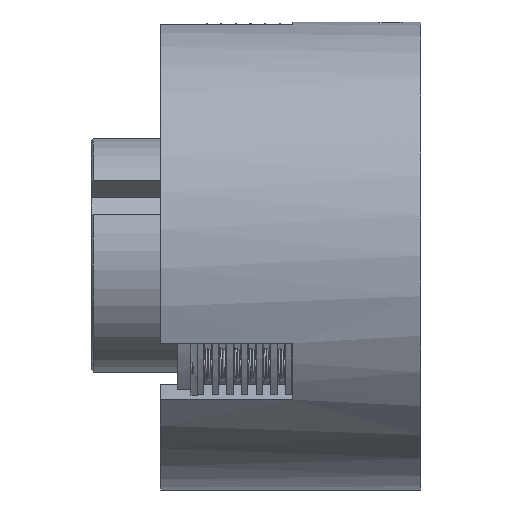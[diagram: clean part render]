
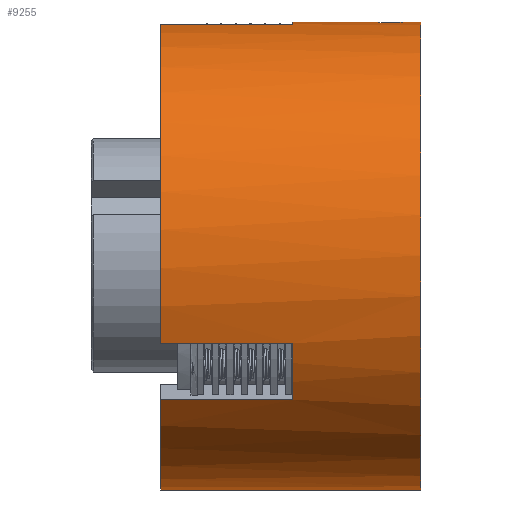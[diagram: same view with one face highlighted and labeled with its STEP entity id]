
A CAD part, top view. The second image highlights one B-rep face of the part: STEP entity #9255.
In plain terms, the highlighted cylindrical face has radius 54 mm (diameter 108 mm), a full revolution.
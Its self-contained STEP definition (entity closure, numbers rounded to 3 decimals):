
#163=FACE_BOUND('',#2933,.T.);
#341=CYLINDRICAL_SURFACE('',#10229,54.);
#725=LINE('',#18942,#1391);
#732=LINE('',#18956,#1398);
#797=LINE('',#19346,#1463);
#804=LINE('',#19360,#1470);
#809=LINE('',#19370,#1475);
#818=LINE('',#19415,#1484);
#823=LINE('',#19452,#1489);
#1391=VECTOR('',#12029,10.);
#1398=VECTOR('',#12038,10.);
#1463=VECTOR('',#12385,10.);
#1470=VECTOR('',#12394,10.);
#1475=VECTOR('',#12401,10.);
#1484=VECTOR('',#12464,10.);
#1489=VECTOR('',#12515,54.);
#2353=FACE_OUTER_BOUND('',#2932,.T.);
#2932=EDGE_LOOP('',(#7831,#7832,#7833,#7834,#7835,#7836,#7837,#7838,#7839,
#7840,#7841,#7842,#7843,#7844,#7845,#7846,#7847));
#2933=EDGE_LOOP('',(#7848,#7849));
#3169=B_SPLINE_CURVE_WITH_KNOTS('',3,(#19246,#19247,#19248,#19249,#19250,
#19251,#19252,#19253,#19254,#19255,#19256,#19257,#19258,#19259,#19260,#19261,
#19262,#19263),.UNSPECIFIED.,.F.,.F.,(4,2,2,2,2,2,2,2,4),(0.646,
0.807,0.968,1.13,1.291,1.453,
1.614,1.775,1.937),.UNSPECIFIED.);
#3170=B_SPLINE_CURVE_WITH_KNOTS('',3,(#19264,#19265,#19266,#19267,#19268,
#19269,#19270,#19271,#19272,#19273,#19274,#19275,#19276,#19277,#19278,#19279,
#19280,#19281,#19282),.UNSPECIFIED.,.F.,.F.,(4,2,2,2,3,2,2,2,4),(1.937,
2.098,2.26,2.421,2.583,2.744,
2.905,3.067,3.228),.UNSPECIFIED.);
#3606=CIRCLE('',#10182,54.);
#3608=CIRCLE('',#10184,54.);
#3610=CIRCLE('',#10186,54.);
#3617=CIRCLE('',#10202,54.);
#3618=CIRCLE('',#10204,54.);
#3619=CIRCLE('',#10205,54.);
#3621=CIRCLE('',#10209,54.);
#3624=CIRCLE('',#10217,54.);
#3625=CIRCLE('',#10218,54.);
#4234=VERTEX_POINT('',#18939);
#4235=VERTEX_POINT('',#18941);
#4240=VERTEX_POINT('',#18953);
#4241=VERTEX_POINT('',#18955);
#4338=VERTEX_POINT('',#19244);
#4339=VERTEX_POINT('',#19245);
#4362=VERTEX_POINT('',#19343);
#4363=VERTEX_POINT('',#19345);
#4368=VERTEX_POINT('',#19357);
#4369=VERTEX_POINT('',#19359);
#4372=VERTEX_POINT('',#19367);
#4373=VERTEX_POINT('',#19369);
#4377=VERTEX_POINT('',#19382);
#4379=VERTEX_POINT('',#19405);
#4382=VERTEX_POINT('',#19414);
#4384=VERTEX_POINT('',#19429);
#4385=VERTEX_POINT('',#19430);
#5372=EDGE_CURVE('',#4235,#4234,#725,.T.);
#5379=EDGE_CURVE('',#4241,#4240,#732,.T.);
#5507=EDGE_CURVE('',#4338,#4339,#3169,.T.);
#5508=EDGE_CURVE('',#4339,#4338,#3170,.T.);
#5538=EDGE_CURVE('',#4363,#4362,#797,.T.);
#5545=EDGE_CURVE('',#4369,#4368,#804,.T.);
#5550=EDGE_CURVE('',#4373,#4372,#809,.T.);
#5556=EDGE_CURVE('',#4368,#4373,#3606,.T.);
#5558=EDGE_CURVE('',#4377,#4235,#3608,.T.);
#5561=EDGE_CURVE('',#4362,#4241,#3610,.T.);
#5568=EDGE_CURVE('',#4234,#4369,#3617,.T.);
#5569=EDGE_CURVE('',#4379,#4363,#3618,.T.);
#5570=EDGE_CURVE('',#4372,#4379,#3619,.T.);
#5574=EDGE_CURVE('',#4382,#4377,#818,.T.);
#5578=EDGE_CURVE('',#4240,#4382,#3621,.T.);
#5581=EDGE_CURVE('',#4384,#4385,#3624,.T.);
#5582=EDGE_CURVE('',#4385,#4384,#3625,.T.);
#5591=EDGE_CURVE('',#4385,#4379,#823,.T.);
#7831=ORIENTED_EDGE('',*,*,#5581,.F.);
#7832=ORIENTED_EDGE('',*,*,#5582,.F.);
#7833=ORIENTED_EDGE('',*,*,#5591,.T.);
#7834=ORIENTED_EDGE('',*,*,#5569,.T.);
#7835=ORIENTED_EDGE('',*,*,#5538,.T.);
#7836=ORIENTED_EDGE('',*,*,#5561,.T.);
#7837=ORIENTED_EDGE('',*,*,#5379,.T.);
#7838=ORIENTED_EDGE('',*,*,#5578,.T.);
#7839=ORIENTED_EDGE('',*,*,#5574,.T.);
#7840=ORIENTED_EDGE('',*,*,#5558,.T.);
#7841=ORIENTED_EDGE('',*,*,#5372,.T.);
#7842=ORIENTED_EDGE('',*,*,#5568,.T.);
#7843=ORIENTED_EDGE('',*,*,#5545,.T.);
#7844=ORIENTED_EDGE('',*,*,#5556,.T.);
#7845=ORIENTED_EDGE('',*,*,#5550,.T.);
#7846=ORIENTED_EDGE('',*,*,#5570,.T.);
#7847=ORIENTED_EDGE('',*,*,#5591,.F.);
#7848=ORIENTED_EDGE('',*,*,#5507,.T.);
#7849=ORIENTED_EDGE('',*,*,#5508,.T.);
#9255=ADVANCED_FACE('',(#2353,#163),#341,.T.);
#10182=AXIS2_PLACEMENT_3D('',#19380,#12410,#12411);
#10184=AXIS2_PLACEMENT_3D('',#19383,#12414,#12415);
#10186=AXIS2_PLACEMENT_3D('',#19387,#12419,#12420);
#10202=AXIS2_PLACEMENT_3D('',#19403,#12451,#12452);
#10204=AXIS2_PLACEMENT_3D('',#19406,#12455,#12456);
#10205=AXIS2_PLACEMENT_3D('',#19407,#12457,#12458);
#10209=AXIS2_PLACEMENT_3D('',#19421,#12471,#12472);
#10217=AXIS2_PLACEMENT_3D('',#19431,#12487,#12488);
#10218=AXIS2_PLACEMENT_3D('',#19432,#12489,#12490);
#10229=AXIS2_PLACEMENT_3D('',#19451,#12513,#12514);
#12029=DIRECTION('',(-1.,0.,0.));
#12038=DIRECTION('',(-1.,0.,0.));
#12385=DIRECTION('',(1.,0.,0.));
#12394=DIRECTION('',(1.,0.,0.));
#12401=DIRECTION('',(-1.,0.,0.));
#12410=DIRECTION('center_axis',(1.,0.,0.));
#12411=DIRECTION('ref_axis',(0.,1.,0.));
#12414=DIRECTION('center_axis',(1.,0.,0.));
#12415=DIRECTION('ref_axis',(0.,1.,0.));
#12419=DIRECTION('center_axis',(1.,0.,0.));
#12420=DIRECTION('ref_axis',(0.,1.,0.));
#12451=DIRECTION('center_axis',(1.,0.,0.));
#12452=DIRECTION('ref_axis',(0.,1.,0.));
#12455=DIRECTION('center_axis',(1.,0.,0.));
#12456=DIRECTION('ref_axis',(0.,1.,0.));
#12457=DIRECTION('center_axis',(1.,0.,0.));
#12458=DIRECTION('ref_axis',(0.,1.,0.));
#12464=DIRECTION('',(1.,0.,0.));
#12471=DIRECTION('center_axis',(1.,0.,0.));
#12472=DIRECTION('ref_axis',(0.,1.,0.));
#12487=DIRECTION('center_axis',(1.,0.,0.));
#12488=DIRECTION('ref_axis',(0.,1.,0.));
#12489=DIRECTION('center_axis',(1.,0.,0.));
#12490=DIRECTION('ref_axis',(0.,1.,0.));
#12513=DIRECTION('center_axis',(1.,0.,0.));
#12514=DIRECTION('ref_axis',(0.,1.,0.));
#12515=DIRECTION('',(-1.,0.,0.));
#18939=CARTESIAN_POINT('',(-60.,53.477,7.5));
#18941=CARTESIAN_POINT('',(-29.5,53.477,7.5));
#18942=CARTESIAN_POINT('',(-30.,53.477,7.5));
#18953=CARTESIAN_POINT('',(-60.,-20.243,-50.062));
#18955=CARTESIAN_POINT('',(-29.5,-20.243,-50.062));
#18956=CARTESIAN_POINT('',(-30.,-20.243,-50.062));
#19244=CARTESIAN_POINT('',(-11.283,54.,0.));
#19245=CARTESIAN_POINT('',(-2.717,54.,0.));
#19246=CARTESIAN_POINT('Ctrl Pts',(-11.283,54.,0.));
#19247=CARTESIAN_POINT('Ctrl Pts',(-11.283,54.,-0.538));
#19248=CARTESIAN_POINT('Ctrl Pts',(-11.175,53.991,-1.112));
#19249=CARTESIAN_POINT('Ctrl Pts',(-10.738,53.959,-2.167));
#19250=CARTESIAN_POINT('Ctrl Pts',(-10.409,53.936,-2.648));
#19251=CARTESIAN_POINT('Ctrl Pts',(-9.648,53.894,-3.409));
#19252=CARTESIAN_POINT('Ctrl Pts',(-9.167,53.871,-3.738));
#19253=CARTESIAN_POINT('Ctrl Pts',(-8.112,53.839,-4.175));
#19254=CARTESIAN_POINT('Ctrl Pts',(-7.538,53.83,-4.283));
#19255=CARTESIAN_POINT('Ctrl Pts',(-6.462,53.83,-4.283));
#19256=CARTESIAN_POINT('Ctrl Pts',(-5.888,53.839,-4.175));
#19257=CARTESIAN_POINT('Ctrl Pts',(-4.833,53.871,-3.738));
#19258=CARTESIAN_POINT('Ctrl Pts',(-4.352,53.894,-3.409));
#19259=CARTESIAN_POINT('Ctrl Pts',(-3.591,53.936,-2.648));
#19260=CARTESIAN_POINT('Ctrl Pts',(-3.262,53.959,-2.167));
#19261=CARTESIAN_POINT('Ctrl Pts',(-2.825,53.991,-1.112));
#19262=CARTESIAN_POINT('Ctrl Pts',(-2.717,54.,-0.538));
#19263=CARTESIAN_POINT('Ctrl Pts',(-2.717,54.,0.));
#19264=CARTESIAN_POINT('Ctrl Pts',(-2.717,54.,0.));
#19265=CARTESIAN_POINT('Ctrl Pts',(-2.717,54.,0.538));
#19266=CARTESIAN_POINT('Ctrl Pts',(-2.825,53.991,1.112));
#19267=CARTESIAN_POINT('Ctrl Pts',(-3.262,53.959,2.167));
#19268=CARTESIAN_POINT('Ctrl Pts',(-3.591,53.936,2.648));
#19269=CARTESIAN_POINT('Ctrl Pts',(-4.352,53.894,3.409));
#19270=CARTESIAN_POINT('Ctrl Pts',(-4.833,53.871,3.738));
#19271=CARTESIAN_POINT('Ctrl Pts',(-5.888,53.839,4.175));
#19272=CARTESIAN_POINT('Ctrl Pts',(-6.462,53.83,4.283));
#19273=CARTESIAN_POINT('Ctrl Pts',(-7.,53.83,4.283));
#19274=CARTESIAN_POINT('Ctrl Pts',(-7.538,53.83,4.283));
#19275=CARTESIAN_POINT('Ctrl Pts',(-8.112,53.839,4.175));
#19276=CARTESIAN_POINT('Ctrl Pts',(-9.167,53.871,3.738));
#19277=CARTESIAN_POINT('Ctrl Pts',(-9.648,53.894,3.409));
#19278=CARTESIAN_POINT('Ctrl Pts',(-10.409,53.936,2.648));
#19279=CARTESIAN_POINT('Ctrl Pts',(-10.738,53.959,2.167));
#19280=CARTESIAN_POINT('Ctrl Pts',(-11.175,53.991,1.112));
#19281=CARTESIAN_POINT('Ctrl Pts',(-11.283,54.,0.538));
#19282=CARTESIAN_POINT('Ctrl Pts',(-11.283,54.,0.));
#19343=CARTESIAN_POINT('',(-29.5,-33.234,-42.562));
#19345=CARTESIAN_POINT('',(-60.,-33.234,-42.562));
#19346=CARTESIAN_POINT('',(-30.,-33.234,-42.562));
#19357=CARTESIAN_POINT('',(-29.5,-20.243,50.062));
#19359=CARTESIAN_POINT('',(-60.,-20.243,50.062));
#19360=CARTESIAN_POINT('',(-30.,-20.243,50.062));
#19367=CARTESIAN_POINT('',(-60.,-33.234,42.562));
#19369=CARTESIAN_POINT('',(-29.5,-33.234,42.562));
#19370=CARTESIAN_POINT('',(-30.,-33.234,42.562));
#19380=CARTESIAN_POINT('Origin',(-29.5,0.,0.));
#19382=CARTESIAN_POINT('',(-29.5,53.477,-7.5));
#19383=CARTESIAN_POINT('Origin',(-29.5,0.,0.));
#19387=CARTESIAN_POINT('Origin',(-29.5,0.,0.));
#19403=CARTESIAN_POINT('Origin',(-60.,0.,0.));
#19405=CARTESIAN_POINT('',(-60.,-54.,0.));
#19406=CARTESIAN_POINT('Origin',(-60.,0.,0.));
#19407=CARTESIAN_POINT('Origin',(-60.,0.,0.));
#19414=CARTESIAN_POINT('',(-60.,53.477,-7.5));
#19415=CARTESIAN_POINT('',(-30.,53.477,-7.5));
#19421=CARTESIAN_POINT('Origin',(-60.,0.,0.));
#19429=CARTESIAN_POINT('',(0.,54.,0.));
#19430=CARTESIAN_POINT('',(0.,-54.,0.));
#19431=CARTESIAN_POINT('Origin',(0.,0.,0.));
#19432=CARTESIAN_POINT('Origin',(0.,0.,0.));
#19451=CARTESIAN_POINT('Origin',(-30.,0.,0.));
#19452=CARTESIAN_POINT('',(-30.,-54.,0.));
